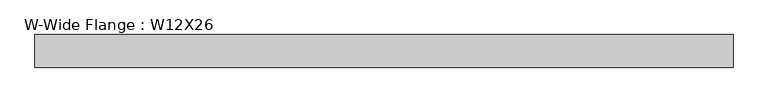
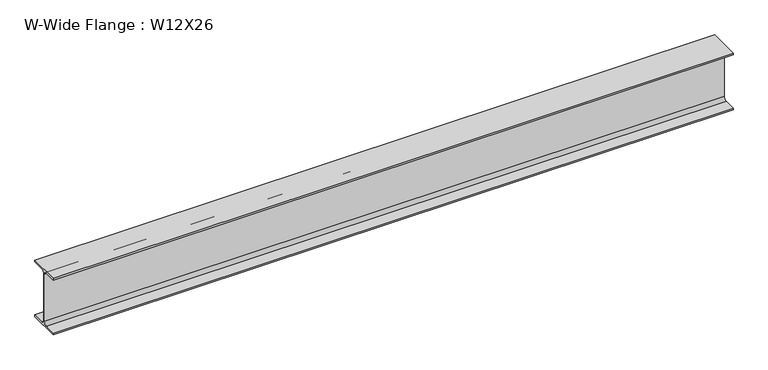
"""IFC4 building model written with IfcOpenShell, lengths in millimetres: beam geometry, W-Wide Flange : W12X26."""

from ifc_helpers import new_model, si_unit, point, frame, frame_2d, origin, place, context, project, spatial, polyline, circle_curve, trimmed, segment, composite_curve, outline, extrude, source, transform, mapped, element, save


def w_wide_flange_w12x26_81ca8151(model_context):
    return source(origin(), model_context, "Body", "SweptSolid", [
        extrude(outline(composite_curve([segment(polyline([(82.4011719, -145.5539063), (82.4011719, -155.178125), (-82.4011719, -155.178125), (-82.4011719, -145.5539063), (-20.2902344, -145.5539063)]), True, "CONTINUOUS"), segment(trimmed(circle_curve(frame_2d((-20.2902344, -128.190625)), 17.3632812), [point((-20.2902344, -145.5539063))], [point((-2.9269531, -128.190625))], True, "CARTESIAN"), True, "CONTINUOUS"), segment(polyline([(-2.9269531, -128.190625), (-2.9269531, 128.190625)]), True, "CONTINUOUS"), segment(trimmed(circle_curve(frame_2d((-20.2902344, 128.190625)), 17.3632812), [point((-2.9269531, 128.190625))], [point((-20.2902344, 145.5539062))], True, "CARTESIAN"), True, "CONTINUOUS"), segment(polyline([(-20.2902344, 145.5539062), (-82.4011719, 145.5539062), (-82.4011719, 155.178125), (82.4011719, 155.178125), (82.4011719, 145.5539062), (20.2902344, 145.5539062)]), True, "CONTINUOUS"), segment(trimmed(circle_curve(frame_2d((20.2902344, 128.190625)), 17.3632812), [point((20.2902344, 145.5539062))], [point((2.9269531, 128.190625))], True, "CARTESIAN"), True, "CONTINUOUS"), segment(polyline([(2.9269531, 128.190625), (2.9269531, -128.190625)]), True, "CONTINUOUS"), segment(trimmed(circle_curve(frame_2d((20.2902344, -128.190625)), 17.3632812), [point((2.9269531, -128.190625))], [point((20.2902344, -145.5539063))], True, "CARTESIAN"), True, "CONTINUOUS"), segment(polyline([(20.2902344, -145.5539063), (82.4011719, -145.5539063)]), True, "CONTINUOUS")], self_intersect=False)), frame((-1863.6945215, 0.0, 0.0), z_axis=(1.0, 0.0, 0.0), x_axis=(0.0, 1.0, 0.0)), (0.0, 0.0, 1.0), 3521.9352636),
    ])


if __name__ == "__main__":
    model = new_model("IFC4")
    model_context = context("Model", 3, world=origin())
    ifc_project = project(units=[si_unit("LENGTHUNIT", "METRE", prefix="MILLI")], contexts=[model_context])
    site = spatial("IfcSite", under=ifc_project)
    building = spatial("IfcBuilding", under=site)
    placement = place(None, origin())
    w_wide_flange_w12x26_shape = w_wide_flange_w12x26_81ca8151(model_context)
    element("IfcBeam", 1, ObjectType="W-Wide Flange : W12X26", at=placement, inside=building, context=model_context, shape_type="MappedRepresentation", body=[
        mapped(w_wide_flange_w12x26_shape, transform((0.0, 0.0, 0.0), x_axis=(1.0, 0.0, 0.0), y_axis=(0.0, 1.0, 0.0), z_axis=(0.0, 0.0, 1.0))),
    ])
    save(model, "model.ifc")
